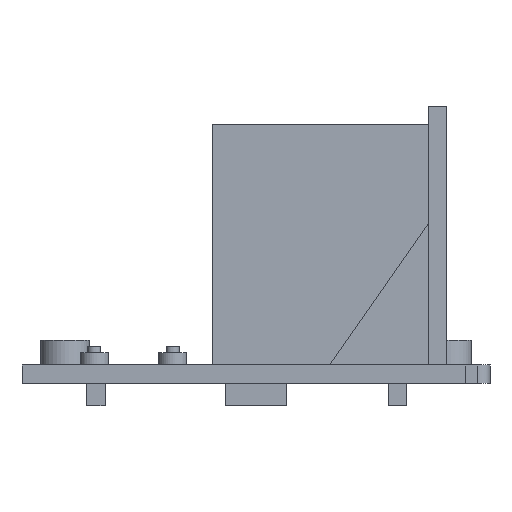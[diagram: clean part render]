
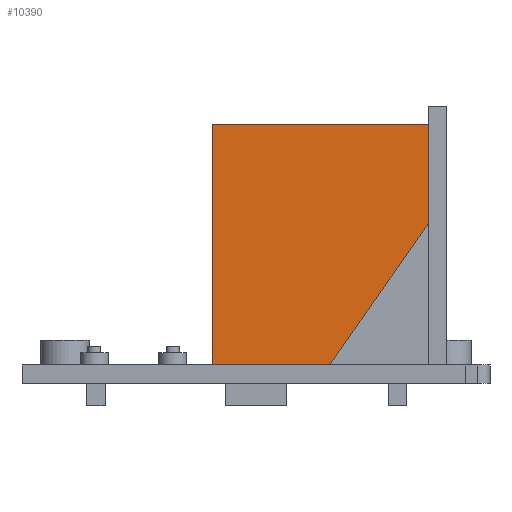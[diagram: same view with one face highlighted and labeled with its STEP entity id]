
A CAD part, left-side view. The second image highlights one B-rep face of the part: STEP entity #10390.
In plain terms, the highlighted planar face has unit normal (-1, 0, 0).
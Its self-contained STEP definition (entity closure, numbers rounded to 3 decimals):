
#230 = PLANE('',#231);
#231 = AXIS2_PLACEMENT_3D('',#232,#233,#234);
#232 = CARTESIAN_POINT('',(-110.,-34.,3.));
#233 = DIRECTION('',(0.,0.,1.));
#234 = DIRECTION('',(1.,0.,0.));
#973 = PLANE('',#974);
#974 = AXIS2_PLACEMENT_3D('',#975,#976,#977);
#975 = CARTESIAN_POINT('',(-100.,-28.,3.));
#976 = DIRECTION('',(0.,1.,0.));
#977 = DIRECTION('',(0.,0.,1.));
#1070 = VERTEX_POINT('',#1071);
#1071 = CARTESIAN_POINT('',(-94.,-28.,3.));
#1092 = EDGE_CURVE('',#1070,#1093,#1095,.T.);
#1093 = VERTEX_POINT('',#1094);
#1094 = CARTESIAN_POINT('',(-94.,7.,3.));
#1095 = SURFACE_CURVE('',#1096,(#1100,#1107),.PCURVE_S1.);
#1096 = LINE('',#1097,#1098);
#1097 = CARTESIAN_POINT('',(-94.,-28.,3.));
#1098 = VECTOR('',#1099,1.);
#1099 = DIRECTION('',(0.,1.,0.));
#1100 = PCURVE('',#230,#1101);
#1101 = DEFINITIONAL_REPRESENTATION('',(#1102),#1106);
#1102 = LINE('',#1103,#1104);
#1103 = CARTESIAN_POINT('',(16.,6.));
#1104 = VECTOR('',#1105,1.);
#1105 = DIRECTION('',(0.,1.));
#1106 = ( GEOMETRIC_REPRESENTATION_CONTEXT(2) 
PARAMETRIC_REPRESENTATION_CONTEXT() REPRESENTATION_CONTEXT('2D SPACE',''
  ) );
#1107 = PCURVE('',#1108,#1113);
#1108 = PLANE('',#1109);
#1109 = AXIS2_PLACEMENT_3D('',#1110,#1111,#1112);
#1110 = CARTESIAN_POINT('',(-94.,-28.,3.));
#1111 = DIRECTION('',(1.,0.,0.));
#1112 = DIRECTION('',(0.,0.,1.));
#1113 = DEFINITIONAL_REPRESENTATION('',(#1114),#1118);
#1114 = LINE('',#1115,#1116);
#1115 = CARTESIAN_POINT('',(0.,0.));
#1116 = VECTOR('',#1117,1.);
#1117 = DIRECTION('',(0.,-1.));
#1118 = ( GEOMETRIC_REPRESENTATION_CONTEXT(2) 
PARAMETRIC_REPRESENTATION_CONTEXT() REPRESENTATION_CONTEXT('2D SPACE',''
  ) );
#1136 = PLANE('',#1137);
#1137 = AXIS2_PLACEMENT_3D('',#1138,#1139,#1140);
#1138 = CARTESIAN_POINT('',(-94.,7.,3.));
#1139 = DIRECTION('',(0.,1.,0.));
#1140 = DIRECTION('',(0.,0.,1.));
#9865 = PLANE('',#9866);
#9866 = AXIS2_PLACEMENT_3D('',#9867,#9868,#9869);
#9867 = CARTESIAN_POINT('',(-94.,-28.,42.));
#9868 = DIRECTION('',(0.,0.,1.));
#9869 = DIRECTION('',(1.,0.,0.));
#9962 = VERTEX_POINT('',#9963);
#9963 = CARTESIAN_POINT('',(-94.,-28.,42.));
#9984 = EDGE_CURVE('',#1070,#9962,#9985,.T.);
#9985 = SURFACE_CURVE('',#9986,(#9990,#9997),.PCURVE_S1.);
#9986 = LINE('',#9987,#9988);
#9987 = CARTESIAN_POINT('',(-94.,-28.,3.));
#9988 = VECTOR('',#9989,1.);
#9989 = DIRECTION('',(0.,0.,1.));
#9990 = PCURVE('',#973,#9991);
#9991 = DEFINITIONAL_REPRESENTATION('',(#9992),#9996);
#9992 = LINE('',#9993,#9994);
#9993 = CARTESIAN_POINT('',(0.,6.));
#9994 = VECTOR('',#9995,1.);
#9995 = DIRECTION('',(1.,0.));
#9996 = ( GEOMETRIC_REPRESENTATION_CONTEXT(2) 
PARAMETRIC_REPRESENTATION_CONTEXT() REPRESENTATION_CONTEXT('2D SPACE',''
  ) );
#9997 = PCURVE('',#1108,#9998);
#9998 = DEFINITIONAL_REPRESENTATION('',(#9999),#10003);
#9999 = LINE('',#10000,#10001);
#10000 = CARTESIAN_POINT('',(0.,0.));
#10001 = VECTOR('',#10002,1.);
#10002 = DIRECTION('',(1.,0.));
#10003 = ( GEOMETRIC_REPRESENTATION_CONTEXT(2) 
PARAMETRIC_REPRESENTATION_CONTEXT() REPRESENTATION_CONTEXT('2D SPACE',''
  ) );
#10390 = ADVANCED_FACE('',(#10391),#1108,.F.);
#10391 = FACE_BOUND('',#10392,.F.);
#10392 = EDGE_LOOP('',(#10393,#10416,#10417,#10418));
#10393 = ORIENTED_EDGE('',*,*,#10394,.T.);
#10394 = EDGE_CURVE('',#10395,#9962,#10397,.T.);
#10395 = VERTEX_POINT('',#10396);
#10396 = CARTESIAN_POINT('',(-94.,7.,42.));
#10397 = SURFACE_CURVE('',#10398,(#10402,#10409),.PCURVE_S1.);
#10398 = LINE('',#10399,#10400);
#10399 = CARTESIAN_POINT('',(-94.,7.,42.));
#10400 = VECTOR('',#10401,1.);
#10401 = DIRECTION('',(0.,-1.,0.));
#10402 = PCURVE('',#1108,#10403);
#10403 = DEFINITIONAL_REPRESENTATION('',(#10404),#10408);
#10404 = LINE('',#10405,#10406);
#10405 = CARTESIAN_POINT('',(39.,-35.));
#10406 = VECTOR('',#10407,1.);
#10407 = DIRECTION('',(0.,1.));
#10408 = ( GEOMETRIC_REPRESENTATION_CONTEXT(2) 
PARAMETRIC_REPRESENTATION_CONTEXT() REPRESENTATION_CONTEXT('2D SPACE',''
  ) );
#10409 = PCURVE('',#9865,#10410);
#10410 = DEFINITIONAL_REPRESENTATION('',(#10411),#10415);
#10411 = LINE('',#10412,#10413);
#10412 = CARTESIAN_POINT('',(0.,35.));
#10413 = VECTOR('',#10414,1.);
#10414 = DIRECTION('',(0.,-1.));
#10415 = ( GEOMETRIC_REPRESENTATION_CONTEXT(2) 
PARAMETRIC_REPRESENTATION_CONTEXT() REPRESENTATION_CONTEXT('2D SPACE',''
  ) );
#10416 = ORIENTED_EDGE('',*,*,#9984,.F.);
#10417 = ORIENTED_EDGE('',*,*,#1092,.T.);
#10418 = ORIENTED_EDGE('',*,*,#10419,.T.);
#10419 = EDGE_CURVE('',#1093,#10395,#10420,.T.);
#10420 = SURFACE_CURVE('',#10421,(#10425,#10432),.PCURVE_S1.);
#10421 = LINE('',#10422,#10423);
#10422 = CARTESIAN_POINT('',(-94.,7.,3.));
#10423 = VECTOR('',#10424,1.);
#10424 = DIRECTION('',(0.,0.,1.));
#10425 = PCURVE('',#1108,#10426);
#10426 = DEFINITIONAL_REPRESENTATION('',(#10427),#10431);
#10427 = LINE('',#10428,#10429);
#10428 = CARTESIAN_POINT('',(0.,-35.));
#10429 = VECTOR('',#10430,1.);
#10430 = DIRECTION('',(1.,0.));
#10431 = ( GEOMETRIC_REPRESENTATION_CONTEXT(2) 
PARAMETRIC_REPRESENTATION_CONTEXT() REPRESENTATION_CONTEXT('2D SPACE',''
  ) );
#10432 = PCURVE('',#1136,#10433);
#10433 = DEFINITIONAL_REPRESENTATION('',(#10434),#10438);
#10434 = LINE('',#10435,#10436);
#10435 = CARTESIAN_POINT('',(0.,0.));
#10436 = VECTOR('',#10437,1.);
#10437 = DIRECTION('',(1.,0.));
#10438 = ( GEOMETRIC_REPRESENTATION_CONTEXT(2) 
PARAMETRIC_REPRESENTATION_CONTEXT() REPRESENTATION_CONTEXT('2D SPACE',''
  ) );
